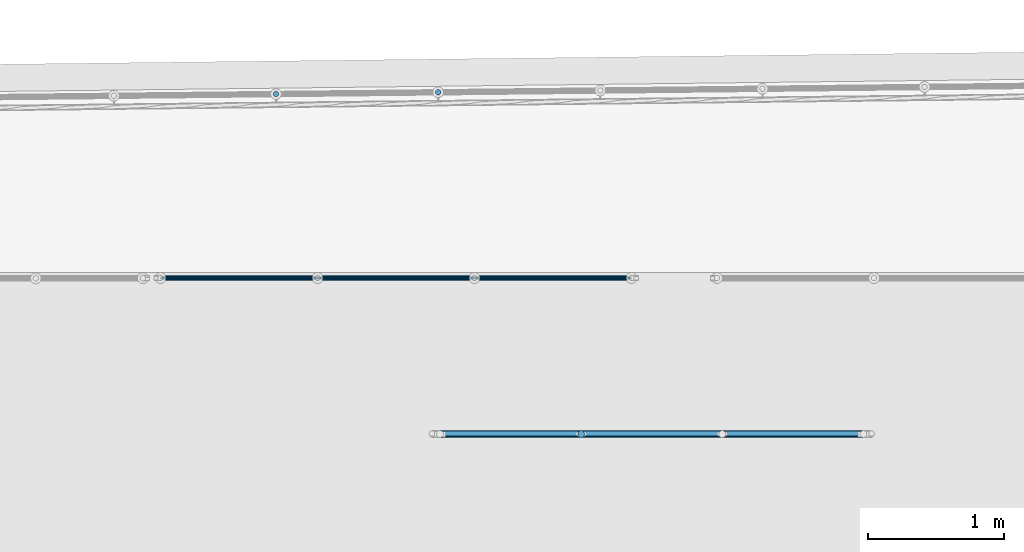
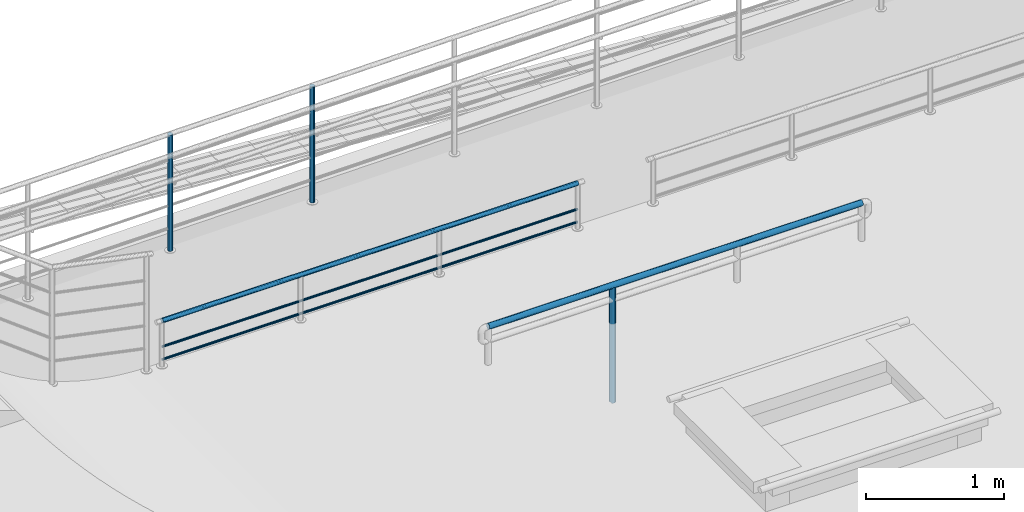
# One storey, part 36 of 237: 7 building element parts, 3 elements without a shape of their own.
"""IFC2X3 building model written with IfcOpenShell, lengths in millimetres."""

from ifc_helpers import new_model, entity, si_unit, converted_unit, derived_unit, money_unit, direction, frame, origin_with_axes, place, context, subcontext, project, spatial, faceted_brep, material, type_object, element, aggregate, save


model = new_model("IFC2X3")

# Units and contexts
model_context = context("Model", 3, precision=0.01, world=origin_with_axes(), true_north=direction((0.0, 1.0)))
body_context = subcontext(model_context, "Body", "Model", "MODEL_VIEW")
ifc_project = project(units=[si_unit("LENGTHUNIT", "METRE", prefix="MILLI"), si_unit("AREAUNIT", "SQUARE_METRE"), si_unit("VOLUMEUNIT", "CUBIC_METRE"), converted_unit("PLANEANGLEUNIT", "DEGREE", entity("IfcPlaneAngleMeasure", 0.0174532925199), si_unit("PLANEANGLEUNIT", "RADIAN"), dimensions=[0, 0, 0, 0, 0, 0, 0]), money_unit("USD"), converted_unit("TIMEUNIT", "Year", entity("IfcTimeMeasure", 31556926.0), si_unit("TIMEUNIT", "SECOND"), dimensions=[0, 0, 1, 0, 0, 0, 0]), si_unit("MASSUNIT", "GRAM", prefix="KILO"), si_unit("THERMODYNAMICTEMPERATUREUNIT", "DEGREE_CELSIUS"), si_unit("LUMINOUSINTENSITYUNIT", "LUMEN"), si_unit("ENERGYUNIT", "JOULE", prefix="MEGA"), derived_unit("THERMALCONDUCTANCEUNIT", [(si_unit("POWERUNIT", "WATT"), 1), (si_unit("LENGTHUNIT", "METRE"), -1), (si_unit("THERMODYNAMICTEMPERATUREUNIT", "KELVIN"), -1)]), derived_unit("SPECIFICHEATCAPACITYUNIT", [(si_unit("ENERGYUNIT", "JOULE"), 1), (si_unit("MASSUNIT", "GRAM", prefix="KILO"), -1), (si_unit("THERMODYNAMICTEMPERATUREUNIT", "KELVIN"), -1)]), derived_unit("MASSDENSITYUNIT", [(si_unit("MASSUNIT", "GRAM", prefix="KILO"), 1), (si_unit("VOLUMEUNIT", "CUBIC_METRE"), -1)])], contexts=[model_context])

# Site, building, storey
site_placement = place(None, origin_with_axes())
site = spatial("IfcSite", under=ifc_project, at=site_placement, Name="Local", CompositionType="ELEMENT")
building_placement = place(site_placement, origin_with_axes())
building = spatial("IfcBuilding", under=site, at=building_placement, Name="Construção", CompositionType="ELEMENT")
storey_placement = place(building_placement, origin_with_axes())
storey = spatial("IfcBuildingStorey", under=building, at=storey_placement, Name="Pavimento Térreo", CompositionType="ELEMENT", Elevation=0.0)

# Railing, building element parts
railing_type = type_object("IfcRailingType", Name="Tipo de Guarda-Corpo", PredefinedType="NOTDEFINED")
railing_1_placement = place(storey_placement, frame((57512.4440926, 33894.9362539, -1887.10818411), z_axis=(0.0, 0.0, 1.0), x_axis=(-1.0, 0.0, 0.0)))
railing_1 = element("IfcRailing", 1, at=railing_1_placement, inside=storey, type_object=railing_type, Name="Guarda-Corpo - 002", PredefinedType="NOTDEFINED")
ifc_material_1 = material(Name="Aço - Inoxidável")
building_element_part_1_placement = place(railing_1_placement, origin_with_axes())
building_element_part_1 = element("IfcBuildingElementPart", 2, at=building_element_part_1_placement, material=ifc_material_1, Name="Aço - Inoxidável", context=body_context, shape_type="Brep", body=[
    faceted_brep([(40.0, 60.0, 1030.0), (40.0, 59.6961550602, 1033.47296355), (3510.0, 59.6961550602, 1033.47296355), (3510.0, 60.0, 1030.0), (40.0, 59.6961550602, 1026.52703645), (40.0, 58.7938524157, 1023.15959713), (40.0, 57.3205080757, 1020.0), (40.0, 55.3208888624, 1017.14424781), (40.0, 52.8557521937, 1014.67911114), (40.0, 50.0, 1012.67949192), (40.0, 46.8404028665, 1011.20614758), (40.0, 43.4729635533, 1010.30384494), (40.0, 40.0, 1010.0), (40.0, 36.5270364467, 1010.30384494), (40.0, 33.1595971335, 1011.20614758), (40.0, 30.0, 1012.67949192), (40.0, 27.1442478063, 1014.67911114), (40.0, 24.6791111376, 1017.14424781), (40.0, 22.6794919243, 1020.0), (40.0, 21.2061475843, 1023.15959713), (40.0, 20.3038449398, 1026.52703645), (40.0, 20.0, 1030.0), (40.0, 20.3038449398, 1033.47296355), (40.0, 21.2061475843, 1036.84040287), (40.0, 22.6794919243, 1040.0), (40.0, 24.6791111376, 1042.85575219), (40.0, 27.1442478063, 1045.32088886), (40.0, 30.0, 1047.32050808), (40.0, 33.1595971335, 1048.79385242), (40.0, 36.5270364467, 1049.69615506), (40.0, 40.0, 1050.0), (40.0, 43.4729635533, 1049.69615506), (40.0, 46.8404028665, 1048.79385242), (40.0, 50.0, 1047.32050808), (40.0, 52.8557521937, 1045.32088886), (40.0, 55.3208888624, 1042.85575219), (40.0, 57.3205080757, 1040.0), (40.0, 58.7938524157, 1036.84040287), (3510.0, 58.7938524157, 1036.84040287), (3510.0, 57.3205080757, 1040.0), (3510.0, 55.3208888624, 1042.85575219), (3510.0, 52.8557521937, 1045.32088886), (3510.0, 50.0, 1047.32050808), (3510.0, 46.8404028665, 1048.79385242), (3510.0, 43.4729635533, 1049.69615506), (3510.0, 40.0, 1050.0), (3510.0, 36.5270364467, 1049.69615506), (3510.0, 33.1595971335, 1048.79385242), (3510.0, 30.0, 1047.32050808), (3510.0, 27.1442478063, 1045.32088886), (3510.0, 24.6791111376, 1042.85575219), (3510.0, 22.6794919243, 1040.0), (3510.0, 21.2061475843, 1036.84040287), (3510.0, 20.3038449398, 1033.47296355), (3510.0, 20.0, 1030.0), (3510.0, 20.3038449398, 1026.52703645), (3510.0, 21.2061475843, 1023.15959713), (3510.0, 22.6794919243, 1020.0), (3510.0, 24.6791111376, 1017.14424781), (3510.0, 27.1442478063, 1014.67911114), (3510.0, 30.0, 1012.67949192), (3510.0, 33.1595971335, 1011.20614758), (3510.0, 36.5270364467, 1010.30384494), (3510.0, 40.0, 1010.0), (3510.0, 43.4729635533, 1010.30384494), (3510.0, 46.8404028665, 1011.20614758), (3510.0, 50.0, 1012.67949192), (3510.0, 52.8557521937, 1014.67911114), (3510.0, 55.3208888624, 1017.14424781), (3510.0, 57.3205080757, 1020.0), (3510.0, 58.7938524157, 1023.15959713), (3510.0, 59.6961550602, 1026.52703645)], [[[0, 1, 2, 3]], [[0, 4, 5, 6, 7, 8, 9, 10, 11, 12, 13, 14, 15, 16, 17, 18, 19, 20, 21, 22, 23, 24, 25, 26, 27, 28, 29, 30, 31, 32, 33, 34, 35, 36, 37, 1]], [[1, 37, 38, 2]], [[3, 2, 38, 39, 40, 41, 42, 43, 44, 45, 46, 47, 48, 49, 50, 51, 52, 53, 54, 55, 56, 57, 58, 59, 60, 61, 62, 63, 64, 65, 66, 67, 68, 69, 70, 71]], [[4, 0, 3, 71]], [[5, 4, 71, 70]], [[6, 5, 70, 69]], [[7, 6, 69, 68]], [[8, 7, 68, 67]], [[9, 8, 67, 66]], [[10, 9, 66, 65]], [[11, 10, 65, 64]], [[12, 11, 64, 63]], [[13, 12, 63, 62]], [[14, 13, 62, 61]], [[15, 14, 61, 60]], [[16, 15, 60, 59]], [[17, 16, 59, 58]], [[18, 17, 58, 57]], [[19, 18, 57, 56]], [[20, 19, 56, 55]], [[21, 20, 55, 54]], [[22, 21, 54, 53]], [[23, 22, 53, 52]], [[24, 23, 52, 51]], [[25, 24, 51, 50]], [[26, 25, 50, 49]], [[27, 26, 49, 48]], [[28, 27, 48, 47]], [[29, 28, 47, 46]], [[30, 29, 46, 45]], [[31, 30, 45, 44]], [[32, 31, 44, 43]], [[33, 32, 43, 42]], [[34, 33, 42, 41]], [[35, 34, 41, 40]], [[36, 35, 40, 39]], [[37, 36, 39, 38]]]),
])
building_element_part_2_placement = place(railing_1_placement, origin_with_axes())
building_element_part_2 = element("IfcBuildingElementPart", 3, at=building_element_part_2_placement, material=ifc_material_1, Name="Aço - Inoxidável", context=body_context, shape_type="Brep", body=[
    faceted_brep([(40.0, 50.0, 687.132352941), (40.0, 49.8480775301, 688.868834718), (3510.0, 49.8480775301, 688.868834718), (3510.0, 50.0, 687.132352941), (40.0, 49.8480775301, 685.395871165), (40.0, 49.3969262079, 683.712151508), (40.0, 48.6602540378, 682.132352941), (40.0, 47.6604444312, 680.704476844), (40.0, 46.4278760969, 679.47190851), (40.0, 45.0, 678.472098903), (40.0, 43.4202014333, 677.735426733), (40.0, 41.7364817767, 677.284275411), (40.0, 40.0, 677.132352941), (40.0, 38.2635182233, 677.284275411), (40.0, 36.5797985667, 677.735426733), (40.0, 35.0, 678.472098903), (40.0, 33.5721239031, 679.47190851), (40.0, 32.3395555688, 680.704476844), (40.0, 31.3397459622, 682.132352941), (40.0, 30.6030737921, 683.712151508), (40.0, 30.1519224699, 685.395871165), (40.0, 30.0, 687.132352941), (40.0, 30.1519224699, 688.868834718), (40.0, 30.6030737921, 690.552554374), (40.0, 31.3397459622, 692.132352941), (40.0, 32.3395555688, 693.560229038), (40.0, 33.5721239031, 694.792797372), (40.0, 35.0, 695.792606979), (40.0, 36.5797985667, 696.529279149), (40.0, 38.2635182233, 696.980430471), (40.0, 40.0, 697.132352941), (40.0, 41.7364817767, 696.980430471), (40.0, 43.4202014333, 696.529279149), (40.0, 45.0, 695.792606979), (40.0, 46.4278760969, 694.792797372), (40.0, 47.6604444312, 693.560229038), (40.0, 48.6602540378, 692.132352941), (40.0, 49.3969262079, 690.552554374), (3510.0, 49.3969262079, 690.552554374), (3510.0, 48.6602540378, 692.132352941), (3510.0, 47.6604444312, 693.560229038), (3510.0, 46.4278760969, 694.792797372), (3510.0, 45.0, 695.792606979), (3510.0, 43.4202014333, 696.529279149), (3510.0, 41.7364817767, 696.980430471), (3510.0, 40.0, 697.132352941), (3510.0, 38.2635182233, 696.980430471), (3510.0, 36.5797985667, 696.529279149), (3510.0, 35.0, 695.792606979), (3510.0, 33.5721239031, 694.792797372), (3510.0, 32.3395555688, 693.560229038), (3510.0, 31.3397459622, 692.132352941), (3510.0, 30.6030737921, 690.552554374), (3510.0, 30.1519224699, 688.868834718), (3510.0, 30.0, 687.132352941), (3510.0, 30.1519224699, 685.395871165), (3510.0, 30.6030737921, 683.712151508), (3510.0, 31.3397459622, 682.132352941), (3510.0, 32.3395555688, 680.704476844), (3510.0, 33.5721239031, 679.47190851), (3510.0, 35.0, 678.472098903), (3510.0, 36.5797985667, 677.735426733), (3510.0, 38.2635182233, 677.284275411), (3510.0, 40.0, 677.132352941), (3510.0, 41.7364817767, 677.284275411), (3510.0, 43.4202014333, 677.735426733), (3510.0, 45.0, 678.472098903), (3510.0, 46.4278760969, 679.47190851), (3510.0, 47.6604444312, 680.704476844), (3510.0, 48.6602540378, 682.132352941), (3510.0, 49.3969262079, 683.712151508), (3510.0, 49.8480775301, 685.395871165)], [[[0, 1, 2, 3]], [[0, 4, 5, 6, 7, 8, 9, 10, 11, 12, 13, 14, 15, 16, 17, 18, 19, 20, 21, 22, 23, 24, 25, 26, 27, 28, 29, 30, 31, 32, 33, 34, 35, 36, 37, 1]], [[1, 37, 38, 2]], [[3, 2, 38, 39, 40, 41, 42, 43, 44, 45, 46, 47, 48, 49, 50, 51, 52, 53, 54, 55, 56, 57, 58, 59, 60, 61, 62, 63, 64, 65, 66, 67, 68, 69, 70, 71]], [[4, 0, 3, 71]], [[5, 4, 71, 70]], [[6, 5, 70, 69]], [[7, 6, 69, 68]], [[8, 7, 68, 67]], [[9, 8, 67, 66]], [[10, 9, 66, 65]], [[11, 10, 65, 64]], [[12, 11, 64, 63]], [[13, 12, 63, 62]], [[14, 13, 62, 61]], [[15, 14, 61, 60]], [[16, 15, 60, 59]], [[17, 16, 59, 58]], [[18, 17, 58, 57]], [[19, 18, 57, 56]], [[20, 19, 56, 55]], [[21, 20, 55, 54]], [[22, 21, 54, 53]], [[23, 22, 53, 52]], [[24, 23, 52, 51]], [[25, 24, 51, 50]], [[26, 25, 50, 49]], [[27, 26, 49, 48]], [[28, 27, 48, 47]], [[29, 28, 47, 46]], [[30, 29, 46, 45]], [[31, 30, 45, 44]], [[32, 31, 44, 43]], [[33, 32, 43, 42]], [[34, 33, 42, 41]], [[35, 34, 41, 40]], [[36, 35, 40, 39]], [[37, 36, 39, 38]]]),
])
building_element_part_3_placement = place(railing_1_placement, origin_with_axes())
building_element_part_3 = element("IfcBuildingElementPart", 4, at=building_element_part_3_placement, material=ifc_material_1, Name="Aço - Inoxidável", context=body_context, shape_type="Brep", body=[
    faceted_brep([(40.0, 50.0, 800.0), (40.0, 49.8480775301, 801.736481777), (3510.0, 49.8480775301, 801.736481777), (3510.0, 50.0, 800.0), (40.0, 49.8480775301, 798.263518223), (40.0, 49.3969262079, 796.579798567), (40.0, 48.6602540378, 795.0), (40.0, 47.6604444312, 793.572123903), (40.0, 46.4278760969, 792.339555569), (40.0, 45.0, 791.339745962), (40.0, 43.4202014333, 790.603073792), (40.0, 41.7364817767, 790.15192247), (40.0, 40.0, 790.0), (40.0, 38.2635182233, 790.15192247), (40.0, 36.5797985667, 790.603073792), (40.0, 35.0, 791.339745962), (40.0, 33.5721239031, 792.339555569), (40.0, 32.3395555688, 793.572123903), (40.0, 31.3397459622, 795.0), (40.0, 30.6030737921, 796.579798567), (40.0, 30.1519224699, 798.263518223), (40.0, 30.0, 800.0), (40.0, 30.1519224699, 801.736481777), (40.0, 30.6030737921, 803.420201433), (40.0, 31.3397459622, 805.0), (40.0, 32.3395555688, 806.427876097), (40.0, 33.5721239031, 807.660444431), (40.0, 35.0, 808.660254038), (40.0, 36.5797985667, 809.396926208), (40.0, 38.2635182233, 809.84807753), (40.0, 40.0, 810.0), (40.0, 41.7364817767, 809.84807753), (40.0, 43.4202014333, 809.396926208), (40.0, 45.0, 808.660254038), (40.0, 46.4278760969, 807.660444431), (40.0, 47.6604444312, 806.427876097), (40.0, 48.6602540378, 805.0), (40.0, 49.3969262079, 803.420201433), (3510.0, 49.3969262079, 803.420201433), (3510.0, 48.6602540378, 805.0), (3510.0, 47.6604444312, 806.427876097), (3510.0, 46.4278760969, 807.660444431), (3510.0, 45.0, 808.660254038), (3510.0, 43.4202014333, 809.396926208), (3510.0, 41.7364817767, 809.84807753), (3510.0, 40.0, 810.0), (3510.0, 38.2635182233, 809.84807753), (3510.0, 36.5797985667, 809.396926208), (3510.0, 35.0, 808.660254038), (3510.0, 33.5721239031, 807.660444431), (3510.0, 32.3395555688, 806.427876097), (3510.0, 31.3397459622, 805.0), (3510.0, 30.6030737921, 803.420201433), (3510.0, 30.1519224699, 801.736481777), (3510.0, 30.0, 800.0), (3510.0, 30.1519224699, 798.263518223), (3510.0, 30.6030737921, 796.579798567), (3510.0, 31.3397459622, 795.0), (3510.0, 32.3395555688, 793.572123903), (3510.0, 33.5721239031, 792.339555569), (3510.0, 35.0, 791.339745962), (3510.0, 36.5797985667, 790.603073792), (3510.0, 38.2635182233, 790.15192247), (3510.0, 40.0, 790.0), (3510.0, 41.7364817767, 790.15192247), (3510.0, 43.4202014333, 790.603073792), (3510.0, 45.0, 791.339745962), (3510.0, 46.4278760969, 792.339555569), (3510.0, 47.6604444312, 793.572123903), (3510.0, 48.6602540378, 795.0), (3510.0, 49.3969262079, 796.579798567), (3510.0, 49.8480775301, 798.263518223)], [[[0, 1, 2, 3]], [[0, 4, 5, 6, 7, 8, 9, 10, 11, 12, 13, 14, 15, 16, 17, 18, 19, 20, 21, 22, 23, 24, 25, 26, 27, 28, 29, 30, 31, 32, 33, 34, 35, 36, 37, 1]], [[1, 37, 38, 2]], [[3, 2, 38, 39, 40, 41, 42, 43, 44, 45, 46, 47, 48, 49, 50, 51, 52, 53, 54, 55, 56, 57, 58, 59, 60, 61, 62, 63, 64, 65, 66, 67, 68, 69, 70, 71]], [[4, 0, 3, 71]], [[5, 4, 71, 70]], [[6, 5, 70, 69]], [[7, 6, 69, 68]], [[8, 7, 68, 67]], [[9, 8, 67, 66]], [[10, 9, 66, 65]], [[11, 10, 65, 64]], [[12, 11, 64, 63]], [[13, 12, 63, 62]], [[14, 13, 62, 61]], [[15, 14, 61, 60]], [[16, 15, 60, 59]], [[17, 16, 59, 58]], [[18, 17, 58, 57]], [[19, 18, 57, 56]], [[20, 19, 56, 55]], [[21, 20, 55, 54]], [[22, 21, 54, 53]], [[23, 22, 53, 52]], [[24, 23, 52, 51]], [[25, 24, 51, 50]], [[26, 25, 50, 49]], [[27, 26, 49, 48]], [[28, 27, 48, 47]], [[29, 28, 47, 46]], [[30, 29, 46, 45]], [[31, 30, 45, 44]], [[32, 31, 44, 43]], [[33, 32, 43, 42]], [[34, 33, 42, 41]], [[35, 34, 41, 40]], [[36, 35, 40, 39]], [[37, 36, 39, 38]]]),
])
aggregate(railing_1, [building_element_part_1, building_element_part_2, building_element_part_3])

railing_2_placement = place(storey_placement, frame((70326.6870103, 28675.2458388, -1357.10819655), z_axis=(0.0, 0.0, 1.0), x_axis=(1.0, 0.0, 0.0)))
railing_2 = element("IfcRailing", 5, at=railing_2_placement, inside=storey, type_object=railing_type, Name="Guarda-Corpo - 004", PredefinedType="NOTDEFINED")
building_element_part_4_placement = place(railing_2_placement, origin_with_axes())
building_element_part_4 = element("IfcBuildingElementPart", 6, at=building_element_part_4_placement, material=ifc_material_1, Name="Aço - Inoxidável", context=body_context, shape_type="Brep", body=[
    faceted_brep([(-14275.7174868, 6567.78609225, 5.0), (-14279.1935496, 6568.05214715, 5.0), (-14279.1935496, 6568.05214715, 1030.0), (-14275.7174868, 6567.78609225, 1030.0), (-14282.6630031, 6567.71054811, 5.0), (-14272.3404332, 6566.92046735, 5.0), (-14269.1649988, 6565.48157404, 5.0), (-14266.2876676, 6563.51313235, 5.0), (-14263.7958658, 6561.0749524, 5.0), (-14261.7653056, 6558.24111703, 5.0), (-14260.2576845, 6555.09773092, 5.0), (-14259.3188109, 6551.74030425, 5.0), (-14258.9772118, 6548.27085074, 5.0), (-14259.2432667, 6544.79478797, 5.0), (-14260.1088916, 6541.41773435, 5.0), (-14261.5477849, 6538.24229995, 5.0), (-14263.5162266, 6535.36496874, 5.0), (-14265.9544066, 6532.87316696, 5.0), (-14268.7882419, 6530.84260676, 5.0), (-14271.931628, 6529.33498568, 5.0), (-14275.2890547, 6528.39611202, 5.0), (-14278.7585082, 6528.05451298, 5.0), (-14282.234571, 6528.32056788, 5.0), (-14285.6116246, 6529.18619277, 5.0), (-14288.787059, 6530.62508609, 5.0), (-14291.6643902, 6532.59352777, 5.0), (-14294.156192, 6535.03170773, 5.0), (-14296.1867522, 6537.86554309, 5.0), (-14297.6943733, 6541.00892921, 5.0), (-14298.6332469, 6544.36635588, 5.0), (-14298.974846, 6547.83580939, 5.0), (-14298.7087911, 6551.31187216, 5.0), (-14297.8431662, 6554.68892578, 5.0), (-14296.4042729, 6557.86436018, 5.0), (-14294.4358312, 6560.74169139, 5.0), (-14291.9976512, 6563.23349317, 5.0), (-14289.1638159, 6565.26405337, 5.0), (-14286.0204298, 6566.77167445, 5.0), (-14282.6630031, 6567.71054811, 1030.0), (-14259.2432667, 6544.79478797, 1030.0), (-14258.9772118, 6548.27085074, 1030.0), (-14259.3188109, 6551.74030425, 1030.0), (-14260.2576845, 6555.09773092, 1030.0), (-14261.7653056, 6558.24111703, 1030.0), (-14263.7958658, 6561.0749524, 1030.0), (-14266.2876676, 6563.51313235, 1030.0), (-14269.1649988, 6565.48157404, 1030.0), (-14272.3404332, 6566.92046735, 1030.0), (-14286.0204298, 6566.77167445, 1030.0), (-14289.1638159, 6565.26405337, 1030.0), (-14291.9976512, 6563.23349317, 1030.0), (-14294.4358312, 6560.74169139, 1030.0), (-14296.4042729, 6557.86436018, 1030.0), (-14297.8431662, 6554.68892578, 1030.0), (-14298.7087911, 6551.31187216, 1030.0), (-14298.974846, 6547.83580939, 1030.0), (-14298.6332469, 6544.36635588, 1030.0), (-14297.6943733, 6541.00892921, 1030.0), (-14296.1867522, 6537.86554309, 1030.0), (-14294.156192, 6535.03170773, 1030.0), (-14291.6643902, 6532.59352777, 1030.0), (-14288.787059, 6530.62508609, 1030.0), (-14285.6116246, 6529.18619277, 1030.0), (-14282.234571, 6528.32056788, 1030.0), (-14278.7585082, 6528.05451298, 1030.0), (-14275.2890547, 6528.39611202, 1030.0), (-14271.931628, 6529.33498568, 1030.0), (-14268.7882419, 6530.84260676, 1030.0), (-14265.9544066, 6532.87316696, 1030.0), (-14263.5162266, 6535.36496874, 1030.0), (-14261.5477849, 6538.24229995, 1030.0), (-14260.1088916, 6541.41773435, 1030.0)], [[[0, 1, 2, 3]], [[4, 1, 0, 5, 6, 7, 8, 9, 10, 11, 12, 13, 14, 15, 16, 17, 18, 19, 20, 21, 22, 23, 24, 25, 26, 27, 28, 29, 30, 31, 32, 33, 34, 35, 36, 37]], [[1, 4, 38, 2]], [[39, 40, 41, 42, 43, 44, 45, 46, 47, 3, 2, 38, 48, 49, 50, 51, 52, 53, 54, 55, 56, 57, 58, 59, 60, 61, 62, 63, 64, 65, 66, 67, 68, 69, 70, 71]], [[5, 0, 3, 47]], [[6, 5, 47, 46]], [[7, 6, 46, 45]], [[8, 7, 45, 44]], [[9, 8, 44, 43]], [[10, 9, 43, 42]], [[11, 10, 42, 41]], [[12, 11, 41, 40]], [[13, 12, 40, 39]], [[14, 13, 39, 71]], [[15, 14, 71, 70]], [[16, 15, 70, 69]], [[17, 16, 69, 68]], [[18, 17, 68, 67]], [[19, 18, 67, 66]], [[20, 19, 66, 65]], [[21, 20, 65, 64]], [[22, 21, 64, 63]], [[23, 22, 63, 62]], [[24, 23, 62, 61]], [[25, 24, 61, 60]], [[26, 25, 60, 59]], [[27, 26, 59, 58]], [[28, 27, 58, 57]], [[29, 28, 57, 56]], [[30, 29, 56, 55]], [[31, 30, 55, 54]], [[32, 31, 54, 53]], [[33, 32, 53, 52]], [[34, 33, 52, 51]], [[35, 34, 51, 50]], [[36, 35, 50, 49]], [[37, 36, 49, 48]], [[4, 37, 48, 38]]]),
])
building_element_part_5_placement = place(railing_2_placement, origin_with_axes())
building_element_part_5 = element("IfcBuildingElementPart", 7, at=building_element_part_5_placement, material=ifc_material_1, Name="Aço - Inoxidável", context=body_context, shape_type="Brep", body=[
    faceted_brep([(-15470.3547135, 6554.79240904, 5.0), (-15473.8307763, 6555.05846394, 5.0), (-15473.8307763, 6555.05846394, 1030.0), (-15470.3547135, 6554.79240904, 1030.0), (-15477.3002298, 6554.7168649, 5.0), (-15466.9776599, 6553.92678414, 5.0), (-15463.8022255, 6552.48789083, 5.0), (-15460.9248943, 6550.51944914, 5.0), (-15458.4330925, 6548.08126918, 5.0), (-15456.4025323, 6545.24743382, 5.0), (-15454.8949112, 6542.10404771, 5.0), (-15453.9560375, 6538.74662104, 5.0), (-15453.6144385, 6535.27716752, 5.0), (-15453.8804934, 6531.80110476, 5.0), (-15454.7461183, 6528.42405114, 5.0), (-15456.1850116, 6525.24861674, 5.0), (-15458.1534533, 6522.37128552, 5.0), (-15460.5916333, 6519.87948375, 5.0), (-15463.4254686, 6517.84892355, 5.0), (-15466.5688547, 6516.34130247, 5.0), (-15469.9262814, 6515.4024288, 5.0), (-15473.3957349, 6515.06082977, 5.0), (-15476.8717977, 6515.32688467, 5.0), (-15480.2488513, 6516.19250956, 5.0), (-15483.4242857, 6517.63140287, 5.0), (-15486.3016169, 6519.59984456, 5.0), (-15488.7934187, 6522.03802452, 5.0), (-15490.8239789, 6524.87185988, 5.0), (-15492.3316, 6528.01524599, 5.0), (-15493.2704736, 6531.37267266, 5.0), (-15493.6120727, 6534.84212618, 5.0), (-15493.3460178, 6538.31818895, 5.0), (-15492.4803929, 6541.69524257, 5.0), (-15491.0414996, 6544.87067696, 5.0), (-15489.0730579, 6547.74800818, 5.0), (-15486.6348779, 6550.23980995, 5.0), (-15483.8010426, 6552.27037016, 5.0), (-15480.6576564, 6553.77799124, 5.0), (-15477.3002298, 6554.7168649, 1030.0), (-15453.8804934, 6531.80110476, 1030.0), (-15453.6144385, 6535.27716752, 1030.0), (-15453.9560375, 6538.74662104, 1030.0), (-15454.8949112, 6542.10404771, 1030.0), (-15456.4025323, 6545.24743382, 1030.0), (-15458.4330925, 6548.08126918, 1030.0), (-15460.9248943, 6550.51944914, 1030.0), (-15463.8022255, 6552.48789083, 1030.0), (-15466.9776599, 6553.92678414, 1030.0), (-15480.6576564, 6553.77799124, 1030.0), (-15483.8010426, 6552.27037016, 1030.0), (-15486.6348779, 6550.23980995, 1030.0), (-15489.0730579, 6547.74800818, 1030.0), (-15491.0414996, 6544.87067696, 1030.0), (-15492.4803929, 6541.69524257, 1030.0), (-15493.3460178, 6538.31818895, 1030.0), (-15493.6120727, 6534.84212618, 1030.0), (-15493.2704736, 6531.37267266, 1030.0), (-15492.3316, 6528.01524599, 1030.0), (-15490.8239789, 6524.87185988, 1030.0), (-15488.7934187, 6522.03802452, 1030.0), (-15486.3016169, 6519.59984456, 1030.0), (-15483.4242857, 6517.63140287, 1030.0), (-15480.2488513, 6516.19250956, 1030.0), (-15476.8717977, 6515.32688467, 1030.0), (-15473.3957349, 6515.06082977, 1030.0), (-15469.9262814, 6515.4024288, 1030.0), (-15466.5688547, 6516.34130247, 1030.0), (-15463.4254686, 6517.84892355, 1030.0), (-15460.5916333, 6519.87948375, 1030.0), (-15458.1534533, 6522.37128552, 1030.0), (-15456.1850116, 6525.24861674, 1030.0), (-15454.7461183, 6528.42405114, 1030.0)], [[[0, 1, 2, 3]], [[4, 1, 0, 5, 6, 7, 8, 9, 10, 11, 12, 13, 14, 15, 16, 17, 18, 19, 20, 21, 22, 23, 24, 25, 26, 27, 28, 29, 30, 31, 32, 33, 34, 35, 36, 37]], [[1, 4, 38, 2]], [[39, 40, 41, 42, 43, 44, 45, 46, 47, 3, 2, 38, 48, 49, 50, 51, 52, 53, 54, 55, 56, 57, 58, 59, 60, 61, 62, 63, 64, 65, 66, 67, 68, 69, 70, 71]], [[5, 0, 3, 47]], [[6, 5, 47, 46]], [[7, 6, 46, 45]], [[8, 7, 45, 44]], [[9, 8, 44, 43]], [[10, 9, 43, 42]], [[11, 10, 42, 41]], [[12, 11, 41, 40]], [[13, 12, 40, 39]], [[14, 13, 39, 71]], [[15, 14, 71, 70]], [[16, 15, 70, 69]], [[17, 16, 69, 68]], [[18, 17, 68, 67]], [[19, 18, 67, 66]], [[20, 19, 66, 65]], [[21, 20, 65, 64]], [[22, 21, 64, 63]], [[23, 22, 63, 62]], [[24, 23, 62, 61]], [[25, 24, 61, 60]], [[26, 25, 60, 59]], [[27, 26, 59, 58]], [[28, 27, 58, 57]], [[29, 28, 57, 56]], [[30, 29, 56, 55]], [[31, 30, 55, 54]], [[32, 31, 54, 53]], [[33, 32, 53, 52]], [[34, 33, 52, 51]], [[35, 34, 51, 50]], [[36, 35, 50, 49]], [[37, 36, 49, 48]], [[4, 37, 48, 38]]]),
])
aggregate(railing_2, [building_element_part_4, building_element_part_5])

railing_3_placement = place(storey_placement, frame((56020.9807317, 32685.2089387, -1957.10819431), z_axis=(0.0, 0.0, 1.0), x_axis=(1.0, 0.0, 0.0)))
railing_3 = element("IfcRailing", 8, at=railing_3_placement, inside=storey, type_object=railing_type, Name="Guarda-Corpo - 001", PredefinedType="NOTDEFINED")
building_element_part_6_placement = place(railing_3_placement, origin_with_axes())
building_element_part_6 = element("IfcBuildingElementPart", 9, at=building_element_part_6_placement, material=ifc_material_1, Name="Aço - Inoxidável", context=body_context, shape_type="Brep", body=[
    faceted_brep([(40.0, 45.0, 1025.0), (40.0, 44.6201938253, 1029.34120444), (3160.0, 44.6201938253, 1029.34120444), (3160.0, 45.0, 1025.0), (40.0, 44.6201938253, 1020.65879556), (40.0, 43.4923155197, 1016.44949642), (40.0, 41.6506350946, 1012.5), (40.0, 39.151111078, 1008.93030976), (40.0, 36.0696902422, 1005.84888892), (40.0, 32.5, 1003.34936491), (40.0, 28.5505035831, 1001.50768448), (40.0, 24.3412044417, 1000.37980617), (40.0, 20.0, 1000.0), (40.0, 15.6587955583, 1000.37980617), (40.0, 11.4494964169, 1001.50768448), (40.0, 7.5, 1003.34936491), (40.0, 3.93030975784, 1005.84888892), (40.0, 0.848888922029, 1008.93030976), (40.0, -1.65063509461, 1012.5), (40.0, -3.49231551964, 1016.44949642), (40.0, -4.6201938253, 1020.65879556), (40.0, -5.0, 1025.0), (40.0, -4.6201938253, 1029.34120444), (40.0, -3.49231551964, 1033.55050358), (40.0, -1.65063509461, 1037.5), (40.0, 0.848888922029, 1041.06969024), (40.0, 3.93030975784, 1044.15111108), (40.0, 7.5, 1046.65063509), (40.0, 11.4494964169, 1048.49231552), (40.0, 15.6587955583, 1049.62019383), (40.0, 20.0, 1050.0), (40.0, 24.3412044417, 1049.62019383), (40.0, 28.5505035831, 1048.49231552), (40.0, 32.5, 1046.65063509), (40.0, 36.0696902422, 1044.15111108), (40.0, 39.151111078, 1041.06969024), (40.0, 41.6506350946, 1037.5), (40.0, 43.4923155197, 1033.55050358), (3160.0, 43.4923155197, 1033.55050358), (3160.0, 41.6506350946, 1037.5), (3160.0, 39.151111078, 1041.06969024), (3160.0, 36.0696902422, 1044.15111108), (3160.0, 32.5, 1046.65063509), (3160.0, 28.5505035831, 1048.49231552), (3160.0, 24.3412044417, 1049.62019383), (3160.0, 20.0, 1050.0), (3160.0, 15.6587955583, 1049.62019383), (3160.0, 11.4494964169, 1048.49231552), (3160.0, 7.5, 1046.65063509), (3160.0, 3.93030975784, 1044.15111108), (3160.0, 0.848888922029, 1041.06969024), (3160.0, -1.65063509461, 1037.5), (3160.0, -3.49231551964, 1033.55050358), (3160.0, -4.6201938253, 1029.34120444), (3160.0, -5.0, 1025.0), (3160.0, -4.6201938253, 1020.65879556), (3160.0, -3.49231551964, 1016.44949642), (3160.0, -1.65063509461, 1012.5), (3160.0, 0.848888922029, 1008.93030976), (3160.0, 3.93030975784, 1005.84888892), (3160.0, 7.5, 1003.34936491), (3160.0, 11.4494964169, 1001.50768448), (3160.0, 15.6587955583, 1000.37980617), (3160.0, 20.0, 1000.0), (3160.0, 24.3412044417, 1000.37980617), (3160.0, 28.5505035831, 1001.50768448), (3160.0, 32.5, 1003.34936491), (3160.0, 36.0696902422, 1005.84888892), (3160.0, 39.151111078, 1008.93030976), (3160.0, 41.6506350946, 1012.5), (3160.0, 43.4923155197, 1016.44949642), (3160.0, 44.6201938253, 1020.65879556)], [[[0, 1, 2, 3]], [[0, 4, 5, 6, 7, 8, 9, 10, 11, 12, 13, 14, 15, 16, 17, 18, 19, 20, 21, 22, 23, 24, 25, 26, 27, 28, 29, 30, 31, 32, 33, 34, 35, 36, 37, 1]], [[1, 37, 38, 2]], [[3, 2, 38, 39, 40, 41, 42, 43, 44, 45, 46, 47, 48, 49, 50, 51, 52, 53, 54, 55, 56, 57, 58, 59, 60, 61, 62, 63, 64, 65, 66, 67, 68, 69, 70, 71]], [[4, 0, 3, 71]], [[5, 4, 71, 70]], [[6, 5, 70, 69]], [[7, 6, 69, 68]], [[8, 7, 68, 67]], [[9, 8, 67, 66]], [[10, 9, 66, 65]], [[11, 10, 65, 64]], [[12, 11, 64, 63]], [[13, 12, 63, 62]], [[14, 13, 62, 61]], [[15, 14, 61, 60]], [[16, 15, 60, 59]], [[17, 16, 59, 58]], [[18, 17, 58, 57]], [[19, 18, 57, 56]], [[20, 19, 56, 55]], [[21, 20, 55, 54]], [[22, 21, 54, 53]], [[23, 22, 53, 52]], [[24, 23, 52, 51]], [[25, 24, 51, 50]], [[26, 25, 50, 49]], [[27, 26, 49, 48]], [[28, 27, 48, 47]], [[29, 28, 47, 46]], [[30, 29, 46, 45]], [[31, 30, 45, 44]], [[32, 31, 44, 43]], [[33, 32, 43, 42]], [[34, 33, 42, 41]], [[35, 34, 41, 40]], [[36, 35, 40, 39]], [[37, 36, 39, 38]]]),
])
ifc_material_2 = material(Name="Aço - Estrutural")
building_element_part_7_placement = place(railing_3_placement, origin_with_axes())
building_element_part_7 = element("IfcBuildingElementPart", 10, at=building_element_part_7_placement, material=ifc_material_2, Name="Aço - Estrutural", context=body_context, shape_type="Brep", body=[
    faceted_brep([(1066.31919427, 1.20614758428, 0.0), (1073.05407289, 0.303844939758, 0.0), (1080.0, 0.0, 0.0), (1086.94592711, 0.303844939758, 0.0), (1093.68080573, 1.20614758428, 0.0), (1097.26189315, 2.04109182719, 0.0), (1096.06969024, 0.848888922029, 0.0), (1092.5, -1.65063509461, 0.0), (1088.55050358, -3.49231551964, 0.0), (1084.34120444, -4.6201938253, 0.0), (1080.0, -5.0, 0.0), (1075.65879556, -4.6201938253, 0.0), (1071.44949642, -3.49231551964, 0.0), (1067.5, -1.65063509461, 0.0), (1063.93030976, 0.848888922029, 0.0), (1062.73810685, 2.04109182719, 0.0), (1066.31919427, 1.20614758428, 5.0), (1073.05407289, 0.303844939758, 5.0), (1080.0, 0.0, 5.0), (1086.94592711, 0.303844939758, 5.0), (1093.68080573, 1.20614758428, 5.0), (1097.26189315, 2.04109182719, 5.0), (1099.15111108, 3.93030975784, 5.0), (1099.15111108, 3.93030975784, 1020.0), (1096.06969024, 0.848888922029, 1020.0), (1092.5, -1.65063509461, 1020.0), (1088.55050358, -3.49231551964, 1020.0), (1084.34120444, -4.6201938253, 1020.0), (1080.0, -5.0, 1020.0), (1075.65879556, -4.6201938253, 1020.0), (1071.44949642, -3.49231551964, 1020.0), (1067.5, -1.65063509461, 1020.0), (1063.93030976, 0.848888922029, 1020.0), (1062.73810685, 2.04109182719, 5.0), (1060.84888892, 3.93030975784, 1020.0), (1060.84888892, 3.93030975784, 5.0), (1058.34936491, 7.5, 5.0), (1056.50768448, 11.4494964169, 5.0), (1055.37980617, 15.6587955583, 5.0), (1055.0, 20.0, 5.0), (1055.37980617, 24.3412044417, 5.0), (1056.50768448, 28.5505035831, 5.0), (1058.34936491, 32.5, 5.0), (1060.84888892, 36.0696902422, 5.0), (1062.73810685, 37.9589081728, 5.0), (1066.31919427, 38.7938524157, 5.0), (1073.05407289, 39.6961550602, 5.0), (1080.0, 40.0, 5.0), (1086.94592711, 39.6961550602, 5.0), (1093.68080573, 38.7938524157, 5.0), (1097.26189315, 37.9589081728, 5.0), (1099.15111108, 36.0696902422, 5.0), (1101.65063509, 32.5, 5.0), (1103.49231552, 28.5505035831, 5.0), (1104.62019383, 24.3412044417, 5.0), (1105.0, 20.0, 5.0), (1104.62019383, 15.6587955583, 5.0), (1103.49231552, 11.4494964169, 5.0), (1101.65063509, 7.5, 5.0), (1101.65063509, 7.5, 1020.0), (1055.37980617, 24.3412044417, 1020.0), (1055.0, 20.0, 1020.0), (1055.37980617, 15.6587955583, 1020.0), (1056.50768448, 11.4494964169, 1020.0), (1058.34936491, 7.5, 1020.0), (1103.49231552, 11.4494964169, 1020.0), (1104.62019383, 15.6587955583, 1020.0), (1105.0, 20.0, 1020.0), (1104.62019383, 24.3412044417, 1020.0), (1103.49231552, 28.5505035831, 1020.0), (1101.65063509, 32.5, 1020.0), (1099.15111108, 36.0696902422, 1020.0), (1096.06969024, 39.151111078, 1020.0), (1092.5, 41.6506350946, 1020.0), (1088.55050358, 43.4923155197, 1020.0), (1084.34120444, 44.6201938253, 1020.0), (1080.0, 45.0, 1020.0), (1075.65879556, 44.6201938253, 1020.0), (1071.44949642, 43.4923155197, 1020.0), (1067.5, 41.6506350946, 1020.0), (1063.93030976, 39.151111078, 1020.0), (1060.84888892, 36.0696902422, 1020.0), (1058.34936491, 32.5, 1020.0), (1056.50768448, 28.5505035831, 1020.0), (1063.93030976, 39.151111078, 0.0), (1062.73810685, 37.9589081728, 0.0), (1066.31919427, 38.7938524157, 0.0), (1073.05407289, 39.6961550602, 0.0), (1080.0, 40.0, 0.0), (1086.94592711, 39.6961550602, 0.0), (1093.68080573, 38.7938524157, 0.0), (1097.26189315, 37.9589081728, 0.0), (1096.06969024, 39.151111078, 0.0), (1092.5, 41.6506350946, 0.0), (1088.55050358, 43.4923155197, 0.0), (1084.34120444, 44.6201938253, 0.0), (1080.0, 45.0, 0.0), (1075.65879556, 44.6201938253, 0.0), (1071.44949642, 43.4923155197, 0.0), (1067.5, 41.6506350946, 0.0)], [[[0, 1, 2, 3, 4, 5, 6, 7, 8, 9, 10, 11, 12, 13, 14, 15]], [[1, 0, 16, 17]], [[2, 1, 17, 18]], [[3, 2, 18, 19]], [[4, 3, 19, 20]], [[5, 4, 20, 21]], [[21, 22, 23, 24, 6, 5]], [[25, 7, 6, 24]], [[26, 8, 7, 25]], [[27, 9, 8, 26]], [[28, 10, 9, 27]], [[29, 11, 10, 28]], [[30, 12, 11, 29]], [[31, 13, 12, 30]], [[32, 14, 13, 31]], [[33, 15, 14, 32, 34, 35]], [[0, 15, 33, 16]], [[22, 21, 20, 19, 18, 17, 16, 33, 35, 36, 37, 38, 39, 40, 41, 42, 43, 44, 45, 46, 47, 48, 49, 50, 51, 52, 53, 54, 55, 56, 57, 58]], [[22, 58, 59, 23]], [[60, 61, 62, 63, 64, 34, 32, 31, 30, 29, 28, 27, 26, 25, 24, 23, 59, 65, 66, 67, 68, 69, 70, 71, 72, 73, 74, 75, 76, 77, 78, 79, 80, 81, 82, 83]], [[36, 35, 34, 64]], [[37, 36, 64, 63]], [[38, 37, 63, 62]], [[39, 38, 62, 61]], [[40, 39, 61, 60]], [[41, 40, 60, 83]], [[42, 41, 83, 82]], [[43, 42, 82, 81]], [[44, 43, 81, 80, 84, 85]], [[44, 85, 86, 45]], [[86, 87, 46, 45]], [[87, 88, 47, 46]], [[88, 89, 48, 47]], [[89, 90, 49, 48]], [[91, 50, 49, 90]], [[50, 91, 92, 72, 71, 51]], [[52, 51, 71, 70]], [[53, 52, 70, 69]], [[54, 53, 69, 68]], [[55, 54, 68, 67]], [[56, 55, 67, 66]], [[57, 56, 66, 65]], [[58, 57, 65, 59]], [[72, 92, 93, 73]], [[73, 93, 94, 74]], [[74, 94, 95, 75]], [[75, 95, 96, 76]], [[76, 96, 97, 77]], [[77, 97, 98, 78]], [[78, 98, 99, 79]], [[79, 99, 84, 80]], [[86, 85, 84, 99, 98, 97, 96, 95, 94, 93, 92, 91, 90, 89, 88, 87]]]),
])
aggregate(railing_3, [building_element_part_6, building_element_part_7])

save(model, "model.ifc")
